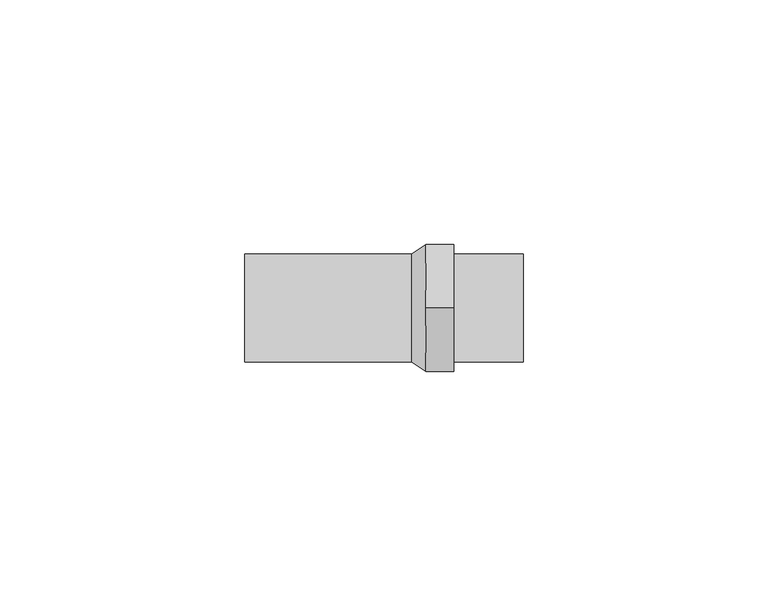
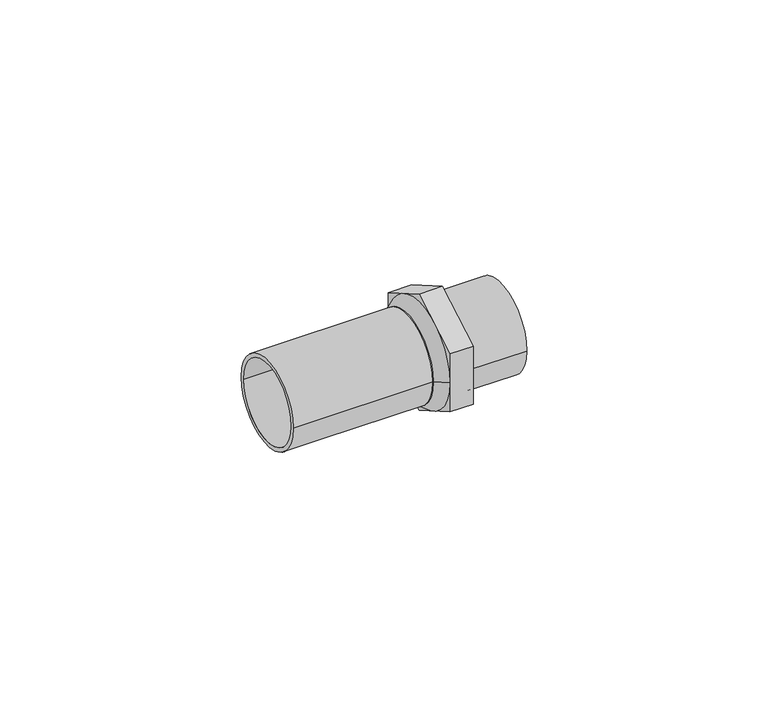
"""IFC4 building model written with IfcOpenShell, lengths in millimetres: pipe fitting geometry, VALTEC_VTi.906.I_Вставка с наружной резьбой нержавеющая сталь : VTi.906.I."""

from ifc_helpers import new_model, si_unit, point, frame, origin, origin_2d, place, context, project, spatial, polyline, circle_curve, trimmed, segment, composite_curve, outline, extrude, source, transform, mapped, element, save
from ifc_brep_helpers import plane_surface, revolved_surface, advanced_brep


def pipe_fitting_48c170c2(model_context):
    return source(origin(), model_context, "Body", "SolidModel", [
        extrude(outline(composite_curve([segment(trimmed(circle_curve(origin_2d(), 11.0), [point((-11.0, 0.0))], [point((11.0, 0.0))], False, "CARTESIAN"), True, "CONTINUOUS"), segment(trimmed(circle_curve(origin_2d(), 11.0), [point((11.0, 0.0))], [point((-11.0, 0.0))], False, "CARTESIAN"), True, "CONTINUOUS")], self_intersect=False), holes=[composite_curve([segment(trimmed(circle_curve(origin_2d(), 10.0), [point((-10.0, 0.0))], [point((10.0, 0.0))], True, "CARTESIAN"), True, "CONTINUOUS"), segment(trimmed(circle_curve(origin_2d(), 10.0), [point((10.0, 0.0))], [point((-10.0, 0.0))], True, "CARTESIAN"), True, "CONTINUOUS")], self_intersect=False)]), frame((42.75, 0.0, 0.0), z_axis=(1.0, 0.0, 0.0), x_axis=(0.0, 1.0, 0.0)), (0.0, 0.0, 1.0), 14.25),
        advanced_brep(
        [(37.05, -13.0, 0.0), (37.05, 13.0, 0.0), (34.2, -11.0, 0.0), (34.2, 11.0, 0.0)],
        [
            (0, 1, circle_curve(frame((37.05, 0.0, 0.0), z_axis=(1.0, 0.0, 0.0), x_axis=(0.0, -1.0, 0.0)), 13.0)),
            (1, 0, circle_curve(frame((37.05, 0.0, 0.0), z_axis=(1.0, 0.0, 0.0), x_axis=(0.0, 1.0, 0.0)), 13.0)),
            (2, 3, circle_curve(frame((34.2, 0.0, 0.0), z_axis=(-1.0, 0.0, 0.0), x_axis=(0.0, 1.0, 0.0)), 11.0)),
            (3, 2, circle_curve(frame((34.2, 0.0, 0.0), z_axis=(-1.0, 0.0, 0.0), x_axis=(0.0, -1.0, 0.0)), 11.0)),
            (3, 1),
            (0, 2),
        ],
        [
            plane_surface(frame((37.05, 0.0, 0.0), z_axis=(1.0, 0.0, 0.0), x_axis=(0.0, 0.0, -1.0))),
            plane_surface(frame((34.2, 0.0, 0.0), z_axis=(-1.0, 0.0, 0.0), x_axis=(0.0, 0.0, -1.0))),
            revolved_surface(polyline([(34.2, 11.000000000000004, 0.0), (37.05, 13.0, 0.0)]), (18.525, 0.0, 0.0), (1.0, 0.0, 0.0)),
            revolved_surface(polyline([(34.2, -11.000000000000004, 0.0), (37.05, -13.0, 0.0)]), (18.525, 0.0, 0.0), (1.0, 0.0, 0.0)),
        ],
        [
            (0, [[1, 2]]),
            (1, [[3, 4]]),
            (2, [[-4, 5, -1, 6]]),
            (3, [[-3, -6, -2, -5]]),
        ],
    ),
        extrude(outline(polyline([(0.0, 15.011107), (13.0, 7.5055535), (13.0, -7.5055535), (0.0, -15.011107), (-13.0, -7.5055535), (-13.0, 7.5055535), (0.0, 15.011107)]), holes=[composite_curve([segment(trimmed(circle_curve(origin_2d(), 10.0), [point((-10.0, 0.0))], [point((10.0, 0.0))], True, "CARTESIAN"), True, "CONTINUOUS"), segment(trimmed(circle_curve(origin_2d(), 10.0), [point((10.0, 0.0))], [point((-10.0, 0.0))], True, "CARTESIAN"), True, "CONTINUOUS")], self_intersect=False)]), frame((37.05, 0.0, 0.0), z_axis=(1.0, 0.0, 0.0), x_axis=(0.0, 1.0, 0.0)), (0.0, 0.0, 1.0), 5.7),
        extrude(outline(composite_curve([segment(trimmed(circle_curve(origin_2d(), 11.0), [point((-11.0, 0.0))], [point((11.0, 0.0))], False, "CARTESIAN"), True, "CONTINUOUS"), segment(trimmed(circle_curve(origin_2d(), 11.0), [point((11.0, 0.0))], [point((-11.0, 0.0))], False, "CARTESIAN"), True, "CONTINUOUS")], self_intersect=False), holes=[composite_curve([segment(trimmed(circle_curve(origin_2d(), 10.0), [point((-10.0, 0.0))], [point((10.0, 0.0))], True, "CARTESIAN"), True, "CONTINUOUS"), segment(trimmed(circle_curve(origin_2d(), 10.0), [point((10.0, 0.0))], [point((-10.0, 0.0))], True, "CARTESIAN"), True, "CONTINUOUS")], self_intersect=False)]), frame((0.0, 0.0, 0.0), z_axis=(1.0, 0.0, 0.0), x_axis=(0.0, 1.0, 0.0)), (0.0, 0.0, 1.0), 34.2),
    ])


if __name__ == "__main__":
    model = new_model("IFC4")
    model_context = context("Model", 3, world=origin())
    ifc_project = project(units=[si_unit("LENGTHUNIT", "METRE", prefix="MILLI")], contexts=[model_context])
    site = spatial("IfcSite", under=ifc_project)
    building = spatial("IfcBuilding", under=site)
    placement = place(None, origin())
    pipe_fitting_shape = pipe_fitting_48c170c2(model_context)
    element("IfcPipeFitting", 1, ObjectType="VALTEC_VTi.906.I_Вставка с наружной резьбой нержавеющая сталь : VTi.906.I", at=placement, inside=building, context=model_context, shape_type="MappedRepresentation", body=[
        mapped(pipe_fitting_shape, transform((0.0, 0.0, 0.0), x_axis=(1.0, 0.0, 0.0), y_axis=(0.0, 1.0, 0.0), z_axis=(0.0, 0.0, 1.0))),
    ])
    save(model, "model.ifc")
